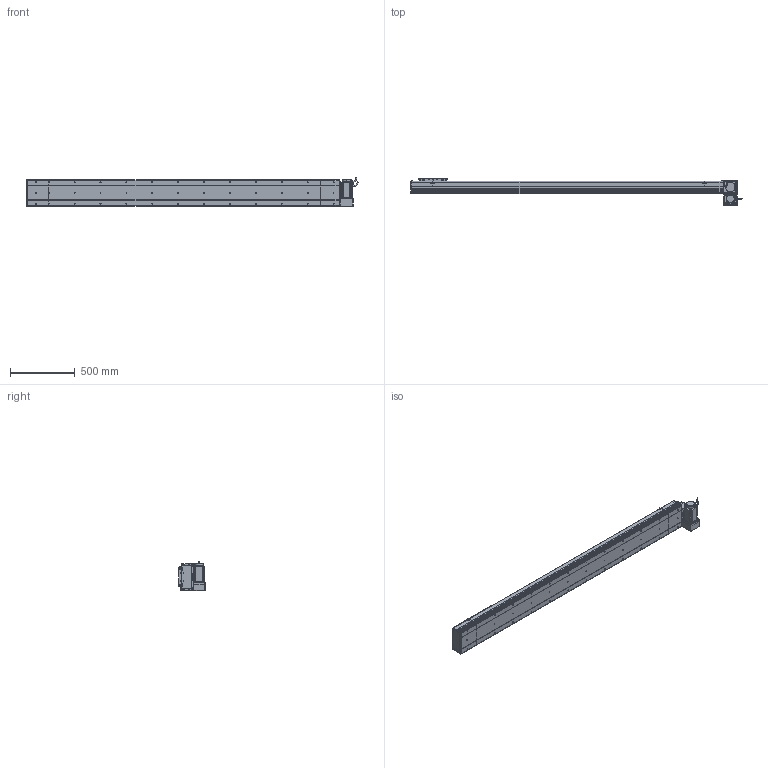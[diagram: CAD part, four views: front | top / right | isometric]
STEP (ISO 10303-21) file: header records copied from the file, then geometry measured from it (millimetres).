
FILE_DESCRIPTION (( 'STEP AP214' ), '1' );
FILE_NAME ('D20 CBH RU S2100.STEP', '2010-06-30T09:58:19', ( 'Conseil Régional Haute-Normandie' ), ( 'Conseil Régional Haute-Normandie' ), 'SwSTEP 2.0', 'SolidWorks 2010', '' );
FILE_SCHEMA (( 'AUTOMOTIVE_DESIGN' ));
Length unit declared in the file: millimetre
Products named in the file (31): Rondelle Cache D20 RU_Default; ecrou_Default; avant 90BLDC125A-640; vis M5 L30_Default; Conecteur_Default; Conecteur2_Default; codeur 90BLDC125-640; corps 90BLDC125A-640; vis M5 L47_Default; Moteur motionking 90BLDC125A-640; vis M5 L15_Default; Couvercle_Default; Corp Tail D20+100_Default; Tail D20+100_Default; Couvercle S2100_Default; Plaque de Bout Tail D20_Default; Plaque De Serrage D20_Default; Corp S2100_Default; Corp D20 S2100_Default; Glissiere_Default; Chariot D20_Default; Support Chariot D20_Default; Head RU_Default; D20 CBH RU S2100; Corp Tail D20 RU_Default; Support moteur RU_Default; Plaque de Bout Head D20 RU_Default; Cache Support Moteur RU_Default; Plaque De Serrage D20 RU_Default; Couvercle RU_Default
Assembly tree (66 placements, depth 4):
  D20 CBH RU S2100
    Corp D20 S2100_Default
      Corp S2100_Default
      Couvercle S2100_Default
    Chariot D20_Default
      vis M5 L15_Default  x8
      Chariot D20_Default
      Support Chariot D20_Default
      Glissiere_Default
    Tail D20+100_Default
      vis M5 L15_Default  x6
      Plaque De Serrage D20_Default
      Plaque de Bout Tail D20_Default
      Corp Tail D20+100_Default
      Couvercle_Default
    Head RU_Default
      ecrou_Default  x4
      Rondelle Cache D20 RU_Default  x3
      vis M5 L15_Default  x12
      Plaque de Bout Head D20 RU_Default
      vis M5 L30_Default  x4
      vis M5 L47_Default  x4
      Corp Tail D20 RU_Default
      Plaque De Serrage D20 RU_Default
      Moteur motionking 90BLDC125A-640
        Conecteur2_Default
        avant 90BLDC125A-640
        codeur 90BLDC125-640
        Conecteur_Default
        corps 90BLDC125A-640
      Cache Support Moteur RU_Default
      Couvercle RU_Default
      Support moteur RU_Default
Bounding box: 2564.45 x 209 x 229.7 mm (x, y, z)
Volume: 17554840.4 mm3; surface area: 3423584.3 mm2
Topology: 103 solids, 103 shells, 3781 faces, 9434 edges, 6130 vertices
Faces by surface type: plane 2102, bspline 806, cylinder 710, torus 91, cone 68, sphere 4
Entity records: 159814 total; most frequent: CARTESIAN_POINT 82383, ORIENTED_EDGE 15336, DIRECTION 11682, EDGE_CURVE 7668, VERTEX_POINT 5074, LINE 4960, VECTOR 4960, AXIS2_PLACEMENT_3D 3361
